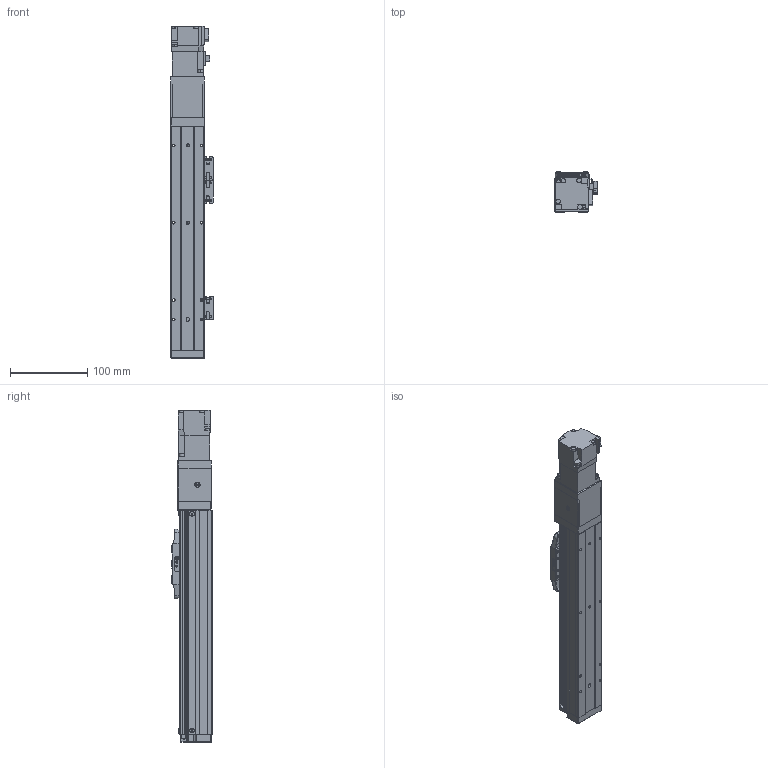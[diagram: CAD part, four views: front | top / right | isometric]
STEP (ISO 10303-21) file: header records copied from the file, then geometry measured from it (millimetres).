
FILE_DESCRIPTION (( 'STEP AP203' ), '1' );
FILE_NAME ('BTH40-150-BC-M05-C4.step', '2021-12-16T01:20:09', ( '微软用户' ), ( '微软中国' ), 'SwSTEP 2.0', 'SolidWorks 2020', '' );
FILE_SCHEMA (( 'CONFIG_CONTROL_DESIGN' ));
Length unit declared in the file: millimetre
Products named in the file (19): BTH40-001-50_BTH40-001-150; BTH50-024; HG-KR13; BTH40-003; GBT 70.1-M3℅6; GBT 70.3-M3℅6; BTH40-006; GBT96.1-2002 3×0.8; BTH40-013; BTH40-017; BTH-M3X5X6; BTH40-022; BTH40-005-1; GBT70.1-2000 M3×16; GBT 70.1-M2.5×6; BTH40-150-BC-M05-C4; BTH50-028; BTH40-004; BTH50-023
Assembly tree (49 placements, depth 2):
  BTH40-150-BC-M05-C4
    BTH40-001-50_BTH40-001-150
    BTH40-003
    BTH40-006
    BTH-M3X5X6  x10
    GBT70.1-2000 M3×16  x4
    BTH50-028  x2
    BTH50-023  x3
    BTH50-024  x3
    GBT 70.1-M3℅6  x6
    GBT96.1-2002 3×0.8  x6
    BTH40-022
    GBT 70.1-M2.5×6  x2
    BTH40-004
    BTH40-013
    HG-KR13
    GBT 70.3-M3℅6  x4
    BTH40-017
    BTH40-005-1
Bounding box: 55.2 x 52 x 429.4 mm (x, y, z)
Volume: 697094.2 mm3; surface area: 156253.7 mm2
Topology: 51 solids, 51 shells, 1872 faces, 4378 edges, 2698 vertices
Faces by surface type: plane 1026, cylinder 453, cone 257, torus 132, sphere 4
Entity records: 34348 total; most frequent: DIRECTION 5561, CARTESIAN_POINT 5555, ORIENTED_EDGE 5218, EDGE_CURVE 2609, AXIS2_PLACEMENT_3D 1867, VECTOR 1827, LINE 1827, VERTEX_POINT 1629
